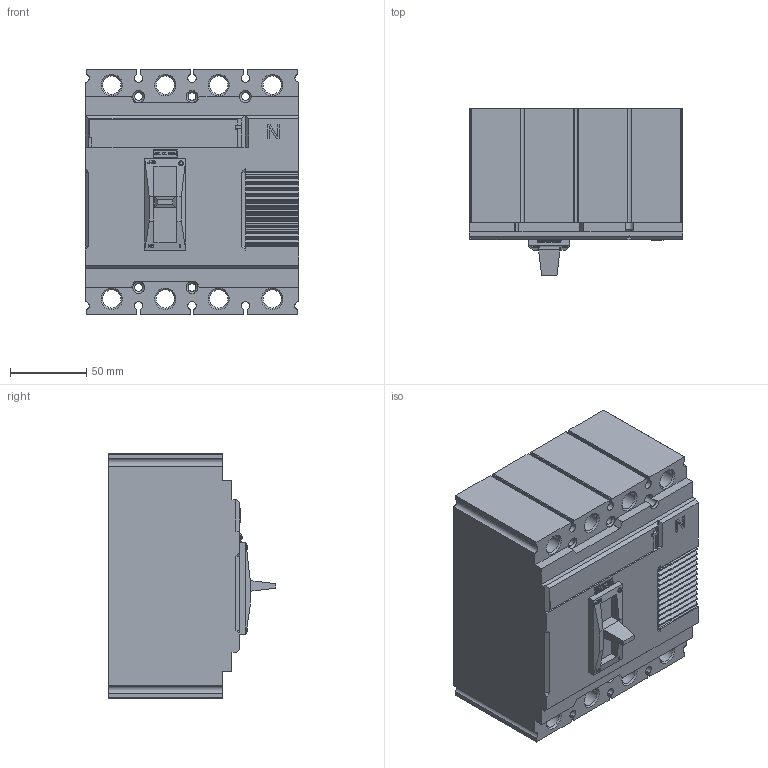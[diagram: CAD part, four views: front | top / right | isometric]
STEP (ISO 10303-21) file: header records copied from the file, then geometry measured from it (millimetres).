
FILE_DESCRIPTION(/* description */ ('','CAx-IF Rec.Pracs.---Representation and Presentation of Product Manufacturing Information (PMI)---3.8---2014-02-18'),/* implementation_level */ '2;1');
FILE_NAME(/* name */ 'E:\3D model\37-susol-mccb-250af-iec-4pl.stp',/* time_stamp */ '2017-11-09T14:50:51+03:00',/* author */ ('dobrin'),/* organization */ (''),/* preprocessor_version */ 'ST-DEVELOPER v16.13',/* originating_system */ 'Autodesk Inventor 2018',/* authorisation */ '');
FILE_SCHEMA (('AP242_MANAGED_MODEL_BASED_3D_ENGINEERING_MIM_LF { 1 0 10303 442 1 1 4 }'));
Length unit declared in the file: metre
Products named in the file (1): 37-susol-mccb-250af-iec-4pl
Bounding box: 140 x 109.7 x 160 mm (x, y, z)
Volume: 1760499.1 mm3; surface area: 133804.6 mm2
Topology: 1 solids, 1 shells, 619 faces, 1731 edges, 1141 vertices
Faces by surface type: plane 540, cylinder 65, cone 14
Full cylindrical faces by diameter (mm): 2 x1, 3 x1, 5.2 x5, 12 x8
Entity records: 19446 total; most frequent: CARTESIAN_POINT 3448, ORIENTED_EDGE 3366, DIRECTION 3102, EDGE_CURVE 1683, LINE 1538, VECTOR 1538, VERTEX_POINT 1120, AXIS2_PLACEMENT_3D 786
